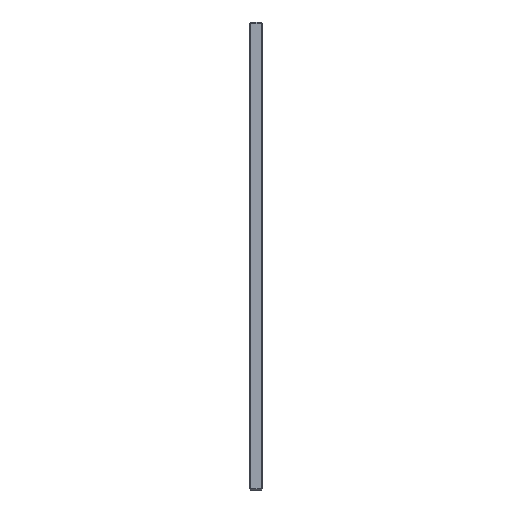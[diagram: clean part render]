
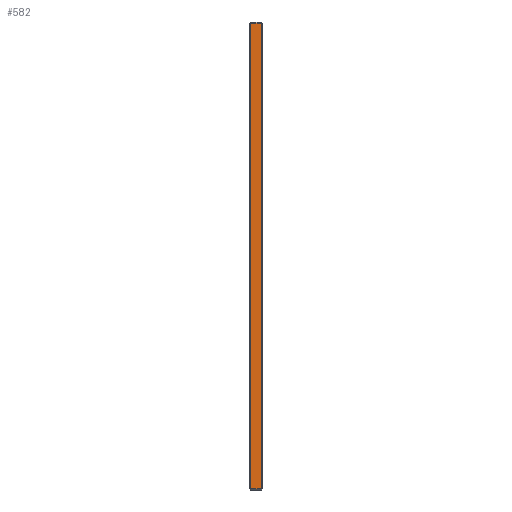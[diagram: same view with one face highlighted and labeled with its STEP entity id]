
A CAD part, left-side view. The second image highlights one B-rep face of the part: STEP entity #582.
In plain terms, the highlighted planar face has unit normal (-1, 0, 0).
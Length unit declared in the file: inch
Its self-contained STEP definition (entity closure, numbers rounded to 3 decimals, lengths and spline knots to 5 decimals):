
#2 = ORIENTED_EDGE ( 'NONE', *, *, #141, .T. ) ;
#15 = VERTEX_POINT ( 'NONE', #902 ) ;
#36 = VERTEX_POINT ( 'NONE', #330 ) ;
#141 = EDGE_CURVE ( 'NONE', #892, #395, #777, .T. ) ;
#144 = CARTESIAN_POINT ( 'NONE',  ( -9.9375, 0.45, -8.875 ) ) ;
#330 = CARTESIAN_POINT ( 'NONE',  ( -9.9375, 0.05, 8.825 ) ) ;
#334 = DIRECTION ( 'NONE',  ( 1., 0., 0. ) ) ;
#339 = DIRECTION ( 'NONE',  ( 0., 0., -1. ) ) ;
#388 = LINE ( 'NONE', #773, #1146 ) ;
#395 = VERTEX_POINT ( 'NONE', #415 ) ;
#413 = LINE ( 'NONE', #563, #453 ) ;
#415 = CARTESIAN_POINT ( 'NONE',  ( -9.9375, 0.05, -8.825 ) ) ;
#453 = VECTOR ( 'NONE', #1444, 39.37008 ) ;
#470 = ORIENTED_EDGE ( 'NONE', *, *, #1610, .T. ) ;
#500 = LINE ( 'NONE', #144, #1012 ) ;
#563 = CARTESIAN_POINT ( 'NONE',  ( -9.9375, 0.5, 8.825 ) ) ;
#582 = ADVANCED_FACE ( 'Placement Plane', ( #926 ), #1338, .F. ) ;
#599 = DIRECTION ( 'NONE',  ( 0., 0., -1. ) ) ;
#603 = CARTESIAN_POINT ( 'NONE',  ( -9.9375, 0.5, -8.875 ) ) ;
#773 = CARTESIAN_POINT ( 'NONE',  ( -9.9375, 0.05, -8.875 ) ) ;
#777 = LINE ( 'NONE', #1491, #1608 ) ;
#892 = VERTEX_POINT ( 'NONE', #1071 ) ;
#902 = CARTESIAN_POINT ( 'NONE',  ( -9.9375, 0.45, 8.825 ) ) ;
#926 = FACE_OUTER_BOUND ( 'NONE', #1856, .T. ) ;
#1012 = VECTOR ( 'NONE', #599, 39.37008 ) ;
#1071 = CARTESIAN_POINT ( 'NONE',  ( -9.9375, 0.45, -8.825 ) ) ;
#1087 = EDGE_CURVE ( 'NONE', #36, #15, #413, .T. ) ;
#1146 = VECTOR ( 'NONE', #1551, 39.37008 ) ;
#1220 = ORIENTED_EDGE ( 'NONE', *, *, #1087, .T. ) ;
#1338 = PLANE ( 'NONE',  #1396 ) ;
#1396 = AXIS2_PLACEMENT_3D ( 'NONE', #603, #334, #339 ) ;
#1444 = DIRECTION ( 'NONE',  ( 0., 1., 0. ) ) ;
#1491 = CARTESIAN_POINT ( 'NONE',  ( -9.9375, 0.5, -8.825 ) ) ;
#1551 = DIRECTION ( 'NONE',  ( 0., 0., 1. ) ) ;
#1608 = VECTOR ( 'NONE', #1648, 39.37008 ) ;
#1610 = EDGE_CURVE ( 'NONE', #395, #36, #388, .T. ) ;
#1636 = ORIENTED_EDGE ( 'NONE', *, *, #1883, .T. ) ;
#1648 = DIRECTION ( 'NONE',  ( 0., -1., 0. ) ) ;
#1856 = EDGE_LOOP ( 'NONE', ( #1636, #2, #470, #1220 ) ) ;
#1883 = EDGE_CURVE ( 'NONE', #15, #892, #500, .T. ) ;
